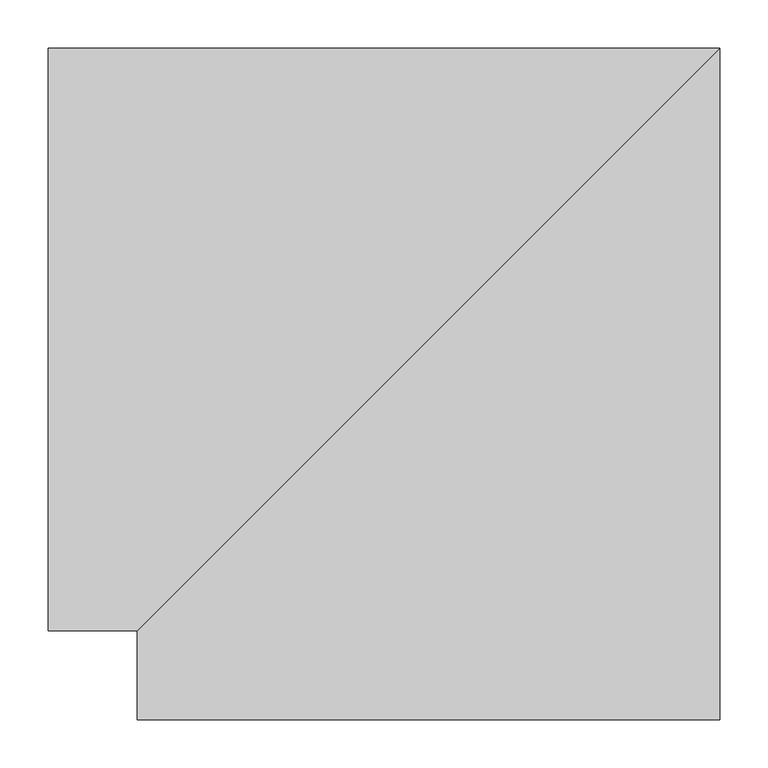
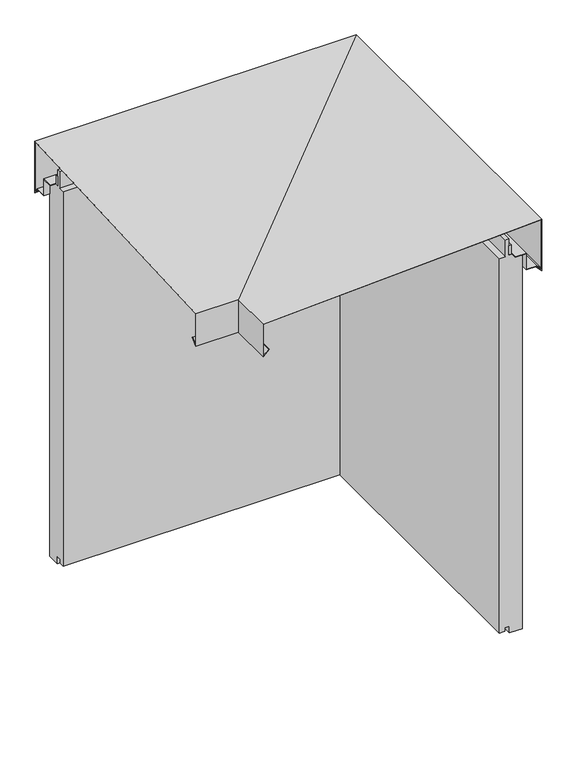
"""IFC4 building model written with IfcOpenShell, lengths in millimetres: plate geometry, Trimo_Qbiss Screen_L Corner Panel-HORIZONTAL : HR - B."""

from ifc_helpers import new_model, si_unit, frame, origin, place, context, project, spatial, polyline, outline, extrude, faceted_brep, source, transform, mapped, element, save


def plate_11fb3f57(model_context):
    return source(origin(), model_context, "Body", "SolidModel", [
        faceted_brep([(415.45, 134.2, 818.9715729), (415.45, 134.2, 934.1569759), (-281.25, 134.2, 934.1569759), (-281.25, 134.2, 818.9715729), (-187.95, -469.2, 905.4165497), (-281.25, -469.2, 905.4165497), (-187.95, -469.2, 833.1070922), (-281.25, -469.2, 833.1070922), (-176.3867532, -457.6367532, 844.670339), (-281.25, -457.6367532, 844.670339), (-175.8210678, -457.0710678, 844.1046536), (-281.25, -457.0710678, 844.1046536), (-188.75, -470.0, 831.1757214), (-281.25, -470.0, 831.1757214), (-188.75, -470.0, 906.1757214), (-281.25, -470.0, 906.1757214), (416.25, 135.0, 935.0), (-281.25, 135.0, 935.0), (416.25, 135.0, 817.040202), (-281.25, 135.0, 817.040202), (404.270101, 123.020101, 829.020101), (-281.25, 123.020101, 829.020101), (404.8357864, 123.5857864, 829.5857864), (-281.25, 123.5857864, 829.5857864), (415.45, -562.5, 818.9715729), (415.45, -562.5, 934.1569759), (-187.95, -562.5, 905.4165497), (-187.95, -562.5, 833.1070922), (-176.3867532, -562.5, 844.670339), (-175.8210678, -562.5, 844.1046536), (-188.75, -562.5, 831.1757214), (-188.75, -562.5, 906.1757214), (416.25, -562.5, 935.0), (416.25, -562.5, 817.040202), (404.270101, -562.5, 829.020101), (404.8357864, -562.5, 829.5857864)], [[[0, 1, 2, 3]], [[1, 4, 5, 2]], [[4, 6, 7, 5]], [[6, 8, 9, 7]], [[8, 10, 11, 9]], [[10, 12, 13, 11]], [[12, 14, 15, 13]], [[14, 16, 17, 15]], [[16, 18, 19, 17]], [[18, 20, 21, 19]], [[20, 22, 23, 21]], [[22, 0, 3, 23]], [[1, 0, 24, 25]], [[4, 1, 25, 26]], [[6, 4, 26, 27]], [[8, 6, 27, 28]], [[10, 8, 28, 29]], [[12, 10, 29, 30]], [[14, 12, 30, 31]], [[16, 14, 31, 32]], [[18, 16, 32, 33]], [[20, 18, 33, 34]], [[22, 20, 34, 35]], [[0, 22, 35, 24]], [[3, 2, 5, 7, 9, 11, 13, 15, 17, 19, 21, 23]], [[25, 24, 35, 34, 33, 32, 31, 30, 29, 28, 27, 26]]]),
        faceted_brep([(414.45, 133.2, 823.9313708), (414.45, 133.2, 822.8), (-281.25, 133.2, 822.8), (-281.25, 133.2, 823.9313708), (406.25, 125.0, 831.0), (-281.25, 125.0, 831.0), (406.25, -562.5, 831.0), (382.25, -562.5, 831.0), (382.25, 101.0, 831.0), (-281.25, 101.0, 831.0), (382.25, 101.0, 868.0), (-281.25, 101.0, 868.0), (382.25, -562.5, 868.0), (358.25, -562.5, 868.0), (358.25, 77.0, 868.0), (-281.25, 77.0, 868.0), (358.25, 77.0, 868.8), (-281.25, 77.0, 868.8), (358.25, -562.5, 868.8), (383.05, -562.5, 868.8), (383.05, 101.8, 868.8), (-281.25, 101.8, 868.8), (383.05, 101.8, 831.8), (-281.25, 101.8, 831.8), (383.05, -562.5, 831.8), (406.5813708, -562.5, 831.8), (406.5813708, 125.3313708, 831.8), (-281.25, 125.3313708, 831.8), (414.45, -562.5, 823.9313708), (414.45, -562.5, 822.8)], [[[0, 1, 2, 3]], [[1, 4, 5, 2]], [[5, 4, 6, 7, 8, 9]], [[8, 10, 11, 9]], [[11, 10, 12, 13, 14, 15]], [[14, 16, 17, 15]], [[17, 16, 18, 19, 20, 21]], [[20, 22, 23, 21]], [[23, 22, 24, 25, 26, 27]], [[26, 0, 3, 27]], [[1, 0, 28, 29]], [[4, 1, 29, 6]], [[10, 8, 7, 12]], [[16, 14, 13, 18]], [[22, 20, 19, 24]], [[0, 26, 25, 28]], [[3, 2, 5, 9, 11, 15, 17, 21, 23, 27]], [[7, 6, 29, 28, 25, 24, 19, 18, 13, 12]]]),
        extrude(outline(polyline([(-268.75, 71.0), (-268.75, 76.0), (357.25, 76.0), (357.25, -550.0), (352.25, -550.0), (352.25, 71.0), (-268.75, 71.0)])), frame((0.0, 0.0, 868.0), z_axis=(0.0, 0.0, 1.0), x_axis=(1.0, 0.0, 0.0)), (0.0, 0.0, 1.0), 21.0),
        faceted_brep([(-268.75, 71.0, 867.0), (-268.75, 100.0, 867.0), (-268.75, 100.0, 0.0), (-268.75, 72.0, 0.0), (-268.75, 72.0, 15.5), (-268.75, 62.0, 15.5), (-268.75, 62.0, 7.0), (-268.75, 50.0, 7.0), (-268.75, 50.0, 867.0), (-268.75, 63.0, 867.0), (-268.75, 63.0, 904.5), (-268.75, 71.0, 904.5), (352.25, 71.0, 867.0), (352.25, -550.0, 867.0), (381.25, -550.0, 867.0), (381.25, 100.0, 867.0), (381.25, 100.0, 0.0), (381.25, -550.0, 0.0), (353.25, -550.0, 0.0), (353.25, 72.0, 0.0), (353.25, 72.0, 15.5), (353.25, -550.0, 15.5), (343.25, -550.0, 15.5), (343.25, 62.0, 15.5), (343.25, 62.0, 7.0), (343.25, -550.0, 7.0), (331.25, -550.0, 7.0), (331.25, 50.0, 7.0), (331.25, 50.0, 867.0), (331.25, -550.0, 867.0), (344.25, -550.0, 867.0), (344.25, 63.0, 867.0), (344.25, 63.0, 904.5), (344.25, -550.0, 904.5), (352.25, -550.0, 904.5), (352.25, 71.0, 904.5)], [[[0, 1, 2, 3, 4, 5, 6, 7, 8, 9, 10, 11]], [[1, 0, 12, 13, 14, 15]], [[2, 1, 15, 16]], [[3, 2, 16, 17, 18, 19]], [[4, 3, 19, 20]], [[5, 4, 20, 21, 22, 23]], [[6, 5, 23, 24]], [[7, 6, 24, 25, 26, 27]], [[8, 7, 27, 28]], [[9, 8, 28, 29, 30, 31]], [[10, 9, 31, 32]], [[11, 10, 32, 33, 34, 35]], [[0, 11, 35, 12]], [[13, 34, 33, 30, 29, 26, 25, 22, 21, 18, 17, 14]], [[16, 15, 14, 17]], [[20, 19, 18, 21]], [[24, 23, 22, 25]], [[28, 27, 26, 29]], [[32, 31, 30, 33]], [[12, 35, 34, 13]]]),
    ])


if __name__ == "__main__":
    model = new_model("IFC4")
    model_context = context("Model", 3, world=origin())
    ifc_project = project(units=[si_unit("LENGTHUNIT", "METRE", prefix="MILLI")], contexts=[model_context])
    site = spatial("IfcSite", under=ifc_project)
    building = spatial("IfcBuilding", under=site)
    placement = place(None, origin())
    plate_shape = plate_11fb3f57(model_context)
    element("IfcPlate", 1, ObjectType="Trimo_Qbiss Screen_L Corner Panel-HORIZONTAL : HR - B", at=placement, inside=building, context=model_context, shape_type="MappedRepresentation", body=[
        mapped(plate_shape, transform((0.0, 0.0, 0.0), x_axis=(1.0, 0.0, 0.0), y_axis=(0.0, 1.0, 0.0), z_axis=(0.0, 0.0, 1.0))),
    ])
    save(model, "model.ifc")
